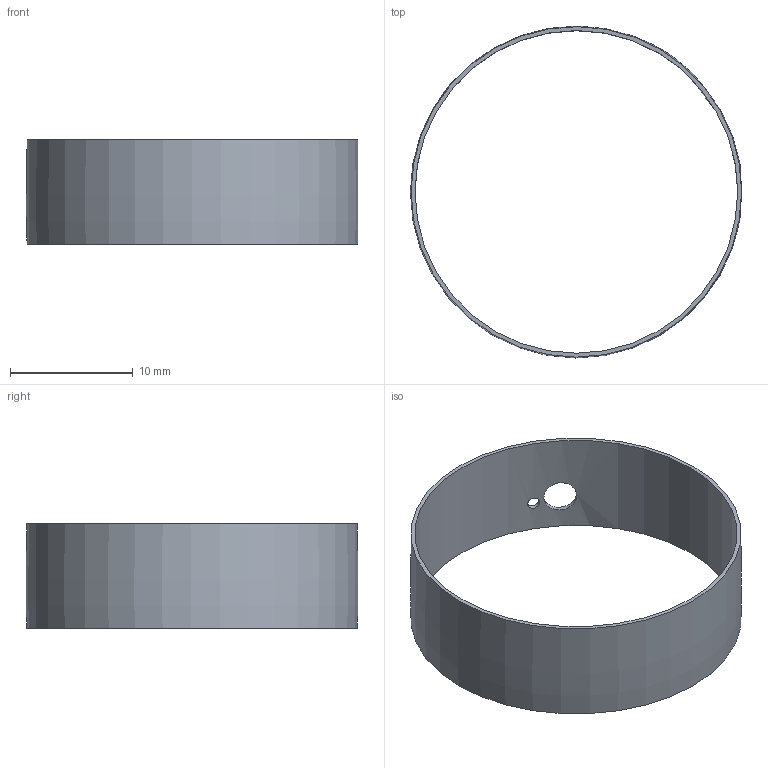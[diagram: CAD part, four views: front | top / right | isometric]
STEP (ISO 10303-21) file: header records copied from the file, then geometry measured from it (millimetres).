
FILE_DESCRIPTION(('FreeCAD Model'),'2;1');
FILE_NAME('Open CASCADE Shape Model','2026-10-23T21:15:57',('FreeCAD'),( 'FreeCAD'),'Open CASCADE STEP processor 7.8','FreeCAD','Unknown');
FILE_SCHEMA(('AUTOMOTIVE_DESIGN { 1 0 10303 214 1 1 1 1 }'));
Length unit declared in the file: millimetre
Products named in the file (1): Open CASCADE STEP translator 7.8 25
Bounding box: 27.04 x 27.1 x 8.5 mm (x, y, z)
Volume: 262.4 mm3; surface area: 1471.7 mm2
Topology: 1 solids, 1 shells, 6 faces, 14 edges, 10 vertices
Faces by surface type: cylinder 3, plane 2, revolution 1
Full cylindrical faces by diameter (mm): 1 x1, 2.7 x1, 26.34 x1
Entity records: 827 total; most frequent: CARTESIAN_POINT 678, ORIENTED_EDGE 28, DIRECTION 20, EDGE_CURVE 14, FACE_BOUND 12, EDGE_LOOP 12, VERTEX_POINT 10, B_SPLINE_CURVE_WITH_KNOTS 10
